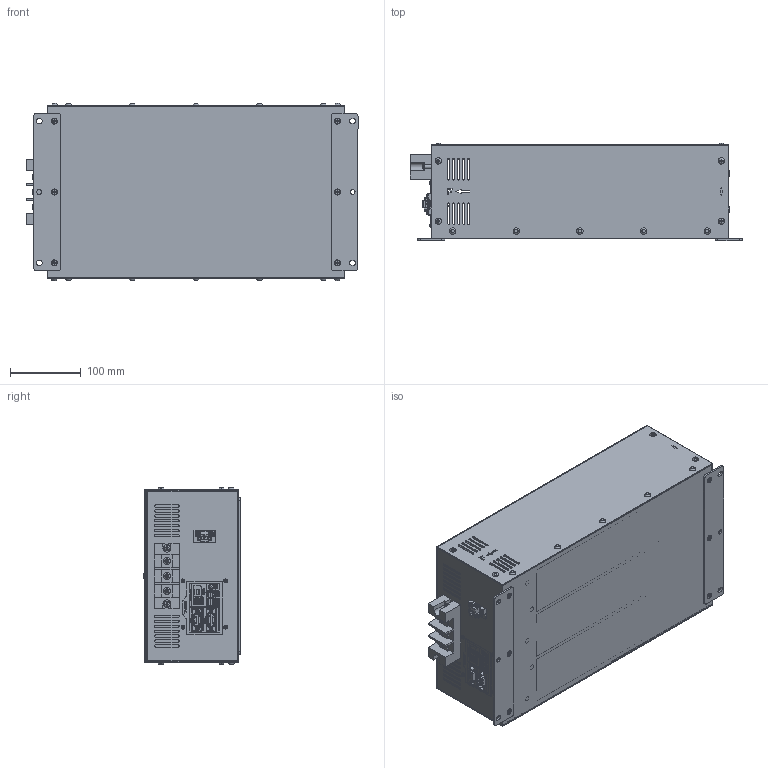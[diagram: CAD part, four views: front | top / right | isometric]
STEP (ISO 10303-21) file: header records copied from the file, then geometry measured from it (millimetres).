
FILE_DESCRIPTION(/* description */ (''),/* implementation_level */ '2;1');
FILE_NAME(/* name */ 'H:\04_배터리_전기종\고부하용 배터리 케이스_3D\[NEW] VX3COM 고객용\VX3COM.stp',/* time_stamp */ '2024-07-23T10:28:58+09:00',/* author */ ('jjang'),/* organization */ (''),/* preprocessor_version */ 'ST-DEVELOPER v18.1',/* originating_system */ 'Autodesk Inventor 2021',/* authorisation */ '');
FILE_SCHEMA (('AUTOMOTIVE_DESIGN { 1 0 10303 214 3 1 1 }'));
Products named in the file (1): VX3COM_2024.07.23_Shrinkwrap_1
Bounding box: 468 x 137.59 x 250.09 mm (x, y, z)
Volume: 9664860.5 mm3; surface area: 1213258.5 mm2
Topology: 7 solids, 7 shells, 4498 faces, 13452 edges, 9311 vertices
Faces by surface type: plane 2398, cylinder 1251, bspline 632, torus 129, cone 61, sphere 27
Full cylindrical faces by diameter (mm): 0.609 x1, 0.61 x27, 0.635 x9, 0.9 x6, 1.397 x9, 1.4 x1, 2.286 x9, 2.8 x8, 2.957 x4, 3 x2, 3.048 x4, 3.2 x4, 3.6 x10, 3.783 x2, 3.8 x8, 3.9 x2, 4 x31, 4.3 x12, 4.5 x8, 5 x17, 5.3 x20, 5.4 x2, 5.429 x2, 5.6 x4, 6 x2, 6.082 x1, 6.6 x2, 7 x5, 7.5 x6, 8 x1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
Entity records: 183671 total; most frequent: CARTESIAN_POINT 60088, ORIENTED_EDGE 26866, DIRECTION 22556, EDGE_CURVE 13433, VERTEX_POINT 9311, AXIS2_PLACEMENT_3D 7681, LINE 7194, VECTOR 7194
